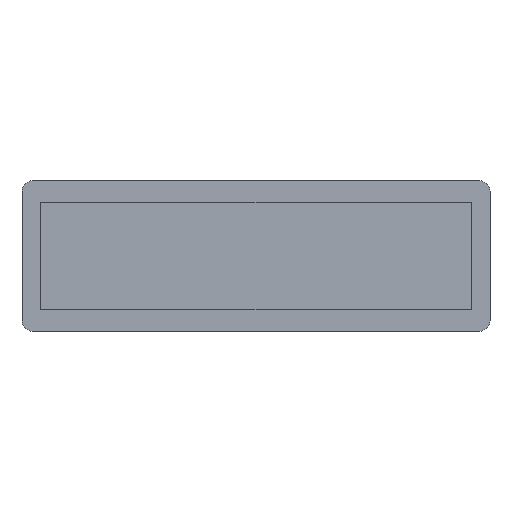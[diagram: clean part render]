
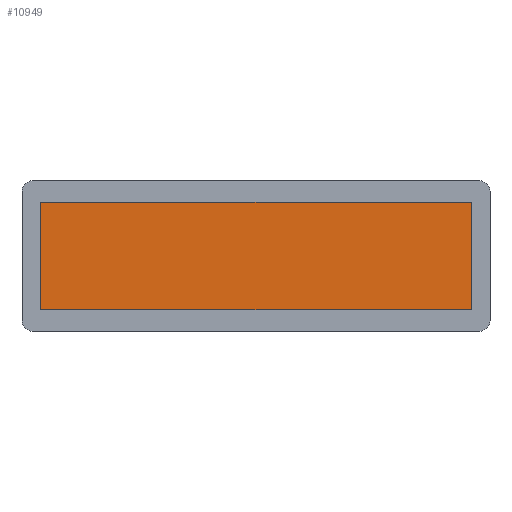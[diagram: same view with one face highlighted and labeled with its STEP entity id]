
A CAD part, front view. The second image highlights one B-rep face of the part: STEP entity #10949.
In plain terms, the highlighted planar face has unit normal (0, -1, 0).
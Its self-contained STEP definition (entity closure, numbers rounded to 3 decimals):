
#124 = DIRECTION ( 'NONE',  ( 0., 0., 1. ) ) ;
#311 = DIRECTION ( 'NONE',  ( 1., 0., 0. ) ) ;
#1057 = CARTESIAN_POINT ( 'NONE',  ( -600., -416.5, -150. ) ) ;
#1136 = VERTEX_POINT ( 'NONE', #2194 ) ;
#1252 = EDGE_LOOP ( 'NONE', ( #5100, #7324, #1920, #7090 ) ) ;
#1451 = CARTESIAN_POINT ( 'NONE',  ( 600., -416.5, 150. ) ) ;
#1920 = ORIENTED_EDGE ( 'NONE', *, *, #3615, .T. ) ;
#1971 = DIRECTION ( 'NONE',  ( 0., 0., -1. ) ) ;
#2019 = CARTESIAN_POINT ( 'NONE',  ( -600., -416.5, 150. ) ) ;
#2109 = VECTOR ( 'NONE', #10809, 1000. ) ;
#2133 = EDGE_CURVE ( 'NONE', #2168, #11339, #4614, .T. ) ;
#2168 = VERTEX_POINT ( 'NONE', #2019 ) ;
#2194 = CARTESIAN_POINT ( 'NONE',  ( 600., -416.5, -150. ) ) ;
#2451 = VERTEX_POINT ( 'NONE', #4540 ) ;
#2867 = DIRECTION ( 'NONE',  ( 0., 0., -1. ) ) ;
#3124 = DIRECTION ( 'NONE',  ( 0., -1., 0. ) ) ;
#3615 = EDGE_CURVE ( 'NONE', #1136, #2451, #4759, .T. ) ;
#3678 = EDGE_CURVE ( 'NONE', #11339, #1136, #9390, .T. ) ;
#4540 = CARTESIAN_POINT ( 'NONE',  ( 600., -416.5, 150. ) ) ;
#4567 = VECTOR ( 'NONE', #311, 1000. ) ;
#4614 = LINE ( 'NONE', #8890, #7015 ) ;
#4759 = LINE ( 'NONE', #10212, #11762 ) ;
#4926 = CARTESIAN_POINT ( 'NONE',  ( 0., -416.5, 0. ) ) ;
#5100 = ORIENTED_EDGE ( 'NONE', *, *, #2133, .T. ) ;
#6259 = AXIS2_PLACEMENT_3D ( 'NONE', #4926, #3124, #1971 ) ;
#7015 = VECTOR ( 'NONE', #2867, 1000. ) ;
#7090 = ORIENTED_EDGE ( 'NONE', *, *, #8634, .T. ) ;
#7324 = ORIENTED_EDGE ( 'NONE', *, *, #3678, .T. ) ;
#8500 = CARTESIAN_POINT ( 'NONE',  ( 600., -416.5, -150. ) ) ;
#8634 = EDGE_CURVE ( 'NONE', #2451, #2168, #11581, .T. ) ;
#8890 = CARTESIAN_POINT ( 'NONE',  ( -600., -416.5, -150. ) ) ;
#9324 = PLANE ( 'NONE',  #6259 ) ;
#9390 = LINE ( 'NONE', #8500, #4567 ) ;
#10201 = FACE_OUTER_BOUND ( 'NONE', #1252, .T. ) ;
#10212 = CARTESIAN_POINT ( 'NONE',  ( 600., -416.5, -150. ) ) ;
#10809 = DIRECTION ( 'NONE',  ( -1., 0., 0. ) ) ;
#10949 = ADVANCED_FACE ( 'NONE', ( #10201 ), #9324, .T. ) ;
#11339 = VERTEX_POINT ( 'NONE', #1057 ) ;
#11581 = LINE ( 'NONE', #1451, #2109 ) ;
#11762 = VECTOR ( 'NONE', #124, 1000. ) ;
